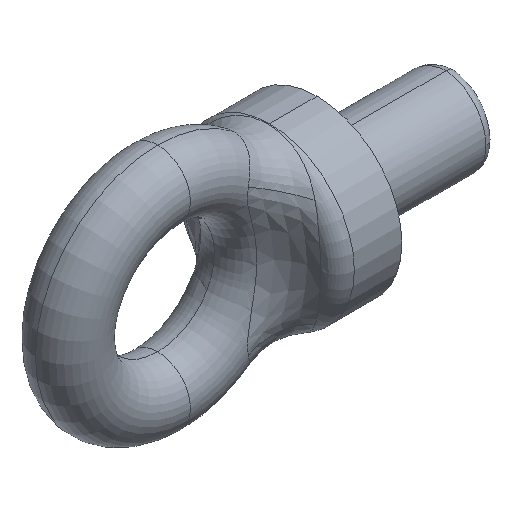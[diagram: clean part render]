
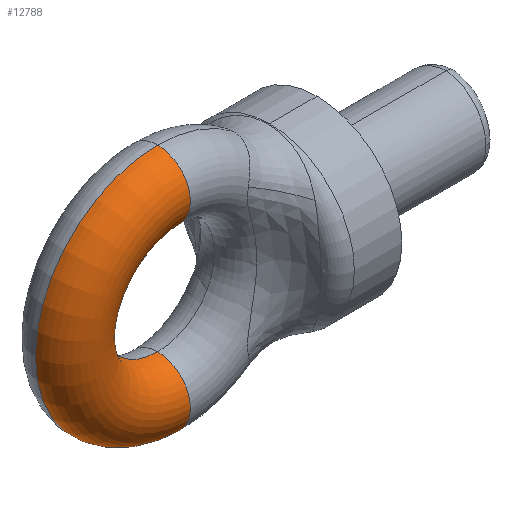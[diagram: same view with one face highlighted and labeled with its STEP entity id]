
A CAD part, isometric view. The second image highlights one B-rep face of the part: STEP entity #12788.
In plain terms, the highlighted toroidal (fillet/blend) face has major radius 26.4 mm and minor radius 9.65 mm.
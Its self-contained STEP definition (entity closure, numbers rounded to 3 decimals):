
#580 = DIRECTION ( 'NONE',  ( 0., 0., 1. ) ) ;
#581 = DIRECTION ( 'NONE',  ( 0., 1., 0. ) ) ;
#582 = CARTESIAN_POINT ( 'NONE',  ( 0., 0., 0. ) ) ;
#583 = AXIS2_PLACEMENT_3D ( 'NONE', #582, #581, #580 ) ;
#588 = TOROIDAL_SURFACE ( 'NONE', #583, 26.4, 9.65 ) ;
#589 = FACE_OUTER_BOUND ( 'NONE', #12785, .T. ) ;
#10219 = CARTESIAN_POINT ( 'NONE',  ( 0., 0., -36.05 ) ) ;
#10353 = CARTESIAN_POINT ( 'NONE',  ( 0., 0., -16.75 ) ) ;
#10354 = DIRECTION ( 'NONE',  ( 0., 0., 1. ) ) ;
#10355 = DIRECTION ( 'NONE',  ( 0., 1., 0. ) ) ;
#10356 = CARTESIAN_POINT ( 'NONE',  ( 0., 0., 0. ) ) ;
#10357 = AXIS2_PLACEMENT_3D ( 'NONE', #10356, #10355, #10354 ) ;
#10358 = CIRCLE ( 'NONE', #10357, 16.75 ) ;
#10359 = CARTESIAN_POINT ( 'NONE',  ( 0., 0., 16.75 ) ) ;
#11922 = VERTEX_POINT ( 'NONE', #10219 ) ;
#11963 = VERTEX_POINT ( 'NONE', #10359 ) ;
#11965 = EDGE_CURVE ( 'NONE', #11966, #11963, #10358, .T. ) ;
#11966 = VERTEX_POINT ( 'NONE', #10353 ) ;
#12151 = EDGE_CURVE ( 'NONE', #11922, #12152, #13712, .T. ) ;
#12152 = VERTEX_POINT ( 'NONE', #13691 ) ;
#12281 = ORIENTED_EDGE ( 'NONE', *, *, #12151, .F. ) ;
#12282 = ORIENTED_EDGE ( 'NONE', *, *, #12653, .F. ) ;
#12283 = ORIENTED_EDGE ( 'NONE', *, *, #11965, .T. ) ;
#12284 = ORIENTED_EDGE ( 'NONE', *, *, #12331, .T. ) ;
#12331 = EDGE_CURVE ( 'NONE', #11963, #12152, #14909, .T. ) ;
#12653 = EDGE_CURVE ( 'NONE', #11966, #11922, #19853, .T. ) ;
#12785 = EDGE_LOOP ( 'NONE', ( #12281, #12282, #12283, #12284 ) ) ;
#12788 = ADVANCED_FACE ( 'NONE', ( #589 ), #588, .T. ) ;
#13691 = CARTESIAN_POINT ( 'NONE',  ( 0., 0., 36.05 ) ) ;
#13692 = DIRECTION ( 'NONE',  ( 0., 0., 1. ) ) ;
#13709 = DIRECTION ( 'NONE',  ( 0., 1., 0. ) ) ;
#13710 = CARTESIAN_POINT ( 'NONE',  ( 0., 0., 0. ) ) ;
#13711 = AXIS2_PLACEMENT_3D ( 'NONE', #13710, #13709, #13692 ) ;
#13712 = CIRCLE ( 'NONE', #13711, 36.05 ) ;
#14905 = DIRECTION ( 'NONE',  ( 0., 0., 1. ) ) ;
#14906 = DIRECTION ( 'NONE',  ( -1., 0., 0. ) ) ;
#14907 = CARTESIAN_POINT ( 'NONE',  ( 0., 0., 26.4 ) ) ;
#14908 = AXIS2_PLACEMENT_3D ( 'NONE', #14907, #14906, #14905 ) ;
#14909 = CIRCLE ( 'NONE', #14908, 9.65 ) ;
#19849 = DIRECTION ( 'NONE',  ( 0., 0., -1. ) ) ;
#19850 = DIRECTION ( 'NONE',  ( 1., 0., 0. ) ) ;
#19851 = CARTESIAN_POINT ( 'NONE',  ( 0., 0., -26.4 ) ) ;
#19852 = AXIS2_PLACEMENT_3D ( 'NONE', #19851, #19850, #19849 ) ;
#19853 = CIRCLE ( 'NONE', #19852, 9.65 ) ;
